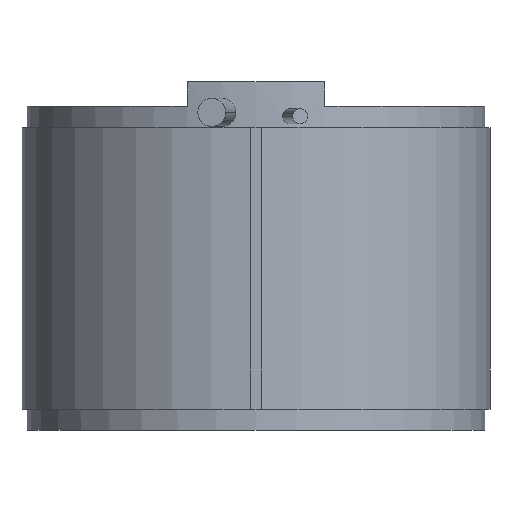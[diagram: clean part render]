
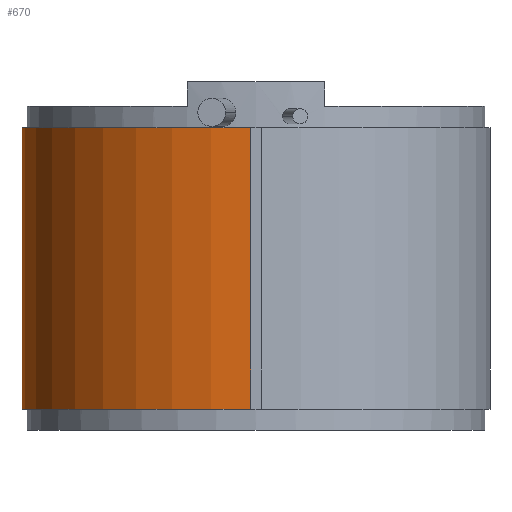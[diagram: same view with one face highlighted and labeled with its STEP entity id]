
A CAD part, front view. The second image highlights one B-rep face of the part: STEP entity #670.
In plain terms, the highlighted cylindrical face has radius 66.5 mm (diameter 133 mm), a partial arc.
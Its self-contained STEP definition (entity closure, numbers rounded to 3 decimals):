
#284 = VERTEX_POINT ( 'NONE', #5355 ) ;
#516 = CARTESIAN_POINT ( 'NONE',  ( -62.85, 104.691, 223.101 ) ) ;
#551 = DIRECTION ( 'NONE',  ( 0., 0., -1. ) ) ;
#670 = ADVANCED_FACE ( 'NONE', ( #3967 ), #5410, .T. ) ;
#816 = CARTESIAN_POINT ( 'NONE',  ( 3.65, 104.691, 223.101 ) ) ;
#840 = CARTESIAN_POINT ( 'NONE',  ( -62.85, 104.691, 143.101 ) ) ;
#882 = EDGE_CURVE ( 'NONE', #284, #4174, #1919, .T. ) ;
#1054 = EDGE_CURVE ( 'NONE', #284, #4339, #3511, .T. ) ;
#1170 = CARTESIAN_POINT ( 'NONE',  ( 3.65, 104.691, 143.101 ) ) ;
#1408 = LINE ( 'NONE', #2847, #4105 ) ;
#1810 = AXIS2_PLACEMENT_3D ( 'NONE', #816, #4084, #3099 ) ;
#1919 = LINE ( 'NONE', #4329, #2103 ) ;
#1990 = DIRECTION ( 'NONE',  ( 0., 0., 1. ) ) ;
#2103 = VECTOR ( 'NONE', #551, 1000. ) ;
#2244 = AXIS2_PLACEMENT_3D ( 'NONE', #1170, #5397, #4102 ) ;
#2320 = EDGE_CURVE ( 'NONE', #3768, #4339, #1408, .T. ) ;
#2847 = CARTESIAN_POINT ( 'NONE',  ( -62.85, 104.691, 223.101 ) ) ;
#3061 = DIRECTION ( 'NONE',  ( 1., 0., 0. ) ) ;
#3099 = DIRECTION ( 'NONE',  ( -1., 0., 0. ) ) ;
#3511 = CIRCLE ( 'NONE', #5170, 66.5 ) ;
#3581 = CARTESIAN_POINT ( 'NONE',  ( 3.65, 104.691, 223.101 ) ) ;
#3653 = ORIENTED_EDGE ( 'NONE', *, *, #882, .F. ) ;
#3768 = VERTEX_POINT ( 'NONE', #840 ) ;
#3967 = FACE_OUTER_BOUND ( 'NONE', #4564, .T. ) ;
#4036 = EDGE_CURVE ( 'NONE', #4174, #3768, #4768, .T. ) ;
#4084 = DIRECTION ( 'NONE',  ( 0., 0., 1. ) ) ;
#4102 = DIRECTION ( 'NONE',  ( 1., 0., 0. ) ) ;
#4105 = VECTOR ( 'NONE', #1990, 1000. ) ;
#4174 = VERTEX_POINT ( 'NONE', #4984 ) ;
#4329 = CARTESIAN_POINT ( 'NONE',  ( 2.125, 38.209, 387.498 ) ) ;
#4339 = VERTEX_POINT ( 'NONE', #516 ) ;
#4564 = EDGE_LOOP ( 'NONE', ( #5015, #5688, #3653, #5203 ) ) ;
#4768 = CIRCLE ( 'NONE', #2244, 66.5 ) ;
#4984 = CARTESIAN_POINT ( 'NONE',  ( 2.125, 38.209, 143.101 ) ) ;
#5015 = ORIENTED_EDGE ( 'NONE', *, *, #2320, .F. ) ;
#5170 = AXIS2_PLACEMENT_3D ( 'NONE', #3581, #5340, #3061 ) ;
#5203 = ORIENTED_EDGE ( 'NONE', *, *, #1054, .T. ) ;
#5340 = DIRECTION ( 'NONE',  ( 0., 0., -1. ) ) ;
#5355 = CARTESIAN_POINT ( 'NONE',  ( 2.125, 38.209, 223.101 ) ) ;
#5397 = DIRECTION ( 'NONE',  ( 0., 0., -1. ) ) ;
#5410 = CYLINDRICAL_SURFACE ( 'NONE', #1810, 66.5 ) ;
#5688 = ORIENTED_EDGE ( 'NONE', *, *, #4036, .F. ) ;
